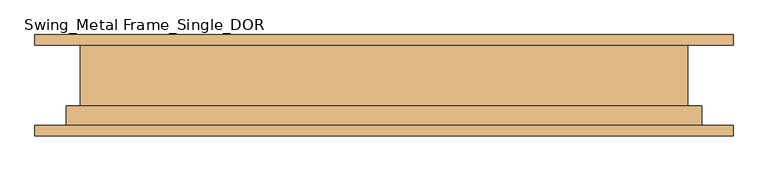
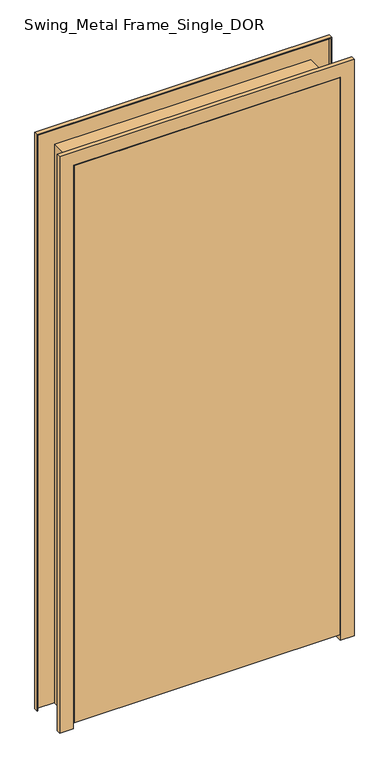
"""IFC4 building model written with IfcOpenShell, lengths in millimetres: door geometry, Swing_Metal Frame_Single_DOR : 2040h x 920 (2110x1020 STUD)."""

from ifc_helpers import new_model, si_unit, frame, origin, place, context, project, spatial, polyline, outline, extrude, faceted_brep, source, transform, mapped, element, save


def swing_metal_frame_single_dor_3c4be974(model_context):
    return source(origin(), model_context, "Body", "SolidModel", [
        extrude(outline(polyline([(460.0, -74.0), (-460.0, -74.0), (-460.0, -34.0), (460.0, -34.0), (460.0, -74.0)])), frame((0.0, 0.0, 20.0), z_axis=(0.0, 0.0, 1.0), x_axis=(1.0, 0.0, 0.0)), (0.0, 0.0, 1.0), 2040.0),
        faceted_brep([(-510.0, 74.0, 0.0), (-442.0, 74.0, 0.0), (-442.0, -32.0, 0.0), (-462.0, -32.0, 0.0), (-462.0, -74.0, 0.0), (-510.0, -74.0, 0.0), (-510.0, -59.0, 0.0), (-508.0, -59.0, 0.0), (-508.0, -72.0, 0.0), (-464.0, -72.0, 0.0), (-464.0, -30.0, 0.0), (-444.0, -30.0, 0.0), (-444.0, 72.0, 0.0), (-508.0, 72.0, 0.0), (-508.0, 59.0, 0.0), (-510.0, 59.0, 0.0), (-510.0, 59.0, 2110.0), (-510.0, 74.0, 2110.0), (-508.0, 59.0, 2108.0), (508.0, 59.0, 2108.0), (508.0, 59.0, 0.0), (510.0, 59.0, 0.0), (510.0, 59.0, 2110.0), (-508.0, 72.0, 2108.0), (-444.0, 72.0, 2044.0), (444.0, 72.0, 2044.0), (444.0, 72.0, 0.0), (508.0, 72.0, 0.0), (508.0, 72.0, 2108.0), (-444.0, -30.0, 2044.0), (-464.0, -30.0, 2064.0), (464.0, -30.0, 2064.0), (464.0, -30.0, 0.0), (444.0, -30.0, 0.0), (444.0, -30.0, 2044.0), (-464.0, -72.0, 2064.0), (-508.0, -72.0, 2108.0), (508.0, -72.0, 2108.0), (508.0, -72.0, 0.0), (464.0, -72.0, 0.0), (464.0, -72.0, 2064.0), (-508.0, -59.0, 2108.0), (-510.0, -59.0, 2110.0), (510.0, -59.0, 2110.0), (510.0, -59.0, 0.0), (508.0, -59.0, 0.0), (508.0, -59.0, 2108.0), (-510.0, -74.0, 2110.0), (-462.0, -74.0, 2062.0), (462.0, -74.0, 2062.0), (462.0, -74.0, 0.0), (510.0, -74.0, 0.0), (510.0, -74.0, 2110.0), (-462.0, -32.0, 2062.0), (-442.0, -32.0, 2042.0), (442.0, -32.0, 2042.0), (442.0, -32.0, 0.0), (462.0, -32.0, 0.0), (462.0, -32.0, 2062.0), (-442.0, 74.0, 2042.0), (510.0, 74.0, 2110.0), (510.0, 74.0, 0.0), (442.0, 74.0, 0.0), (442.0, 74.0, 2042.0)], [[[0, 1, 2, 3, 4, 5, 6, 7, 8, 9, 10, 11, 12, 13, 14, 15]], [[15, 16, 17, 0]], [[14, 18, 19, 20, 21, 22, 16, 15]], [[13, 23, 18, 14]], [[12, 24, 25, 26, 27, 28, 23, 13]], [[11, 29, 24, 12]], [[10, 30, 31, 32, 33, 34, 29, 11]], [[9, 35, 30, 10]], [[8, 36, 37, 38, 39, 40, 35, 9]], [[7, 41, 36, 8]], [[6, 42, 43, 44, 45, 46, 41, 7]], [[5, 47, 42, 6]], [[4, 48, 49, 50, 51, 52, 47, 5]], [[3, 53, 48, 4]], [[2, 54, 55, 56, 57, 58, 53, 3]], [[1, 59, 54, 2]], [[0, 17, 60, 61, 62, 63, 59, 1]], [[22, 21, 61, 60]], [[61, 21, 20, 27, 26, 33, 32, 39, 38, 45, 44, 51, 50, 57, 56, 62]], [[28, 27, 20, 19]], [[34, 33, 26, 25]], [[40, 39, 32, 31]], [[46, 45, 38, 37]], [[52, 51, 44, 43]], [[58, 57, 50, 49]], [[63, 62, 56, 55]], [[16, 22, 60, 17]], [[23, 28, 19, 18]], [[29, 34, 25, 24]], [[35, 40, 31, 30]], [[41, 46, 37, 36]], [[47, 52, 43, 42]], [[53, 58, 49, 48]], [[59, 63, 55, 54]]]),
    ])


if __name__ == "__main__":
    model = new_model("IFC4")
    model_context = context("Model", 3, world=origin())
    ifc_project = project(units=[si_unit("LENGTHUNIT", "METRE", prefix="MILLI")], contexts=[model_context])
    site = spatial("IfcSite", under=ifc_project)
    building = spatial("IfcBuilding", under=site)
    placement = place(None, origin())
    swing_metal_frame_single_dor_shape = swing_metal_frame_single_dor_3c4be974(model_context)
    element("IfcDoor", 1, ObjectType="Swing_Metal Frame_Single_DOR : 2040h x 920 (2110x1020 STUD)", at=placement, inside=building, context=model_context, shape_type="MappedRepresentation", body=[
        mapped(swing_metal_frame_single_dor_shape, transform((0.0, 0.0, 0.0), x_axis=(1.0, 0.0, 0.0), y_axis=(0.0, 1.0, 0.0), z_axis=(0.0, 0.0, 1.0))),
    ])
    save(model, "model.ifc")
